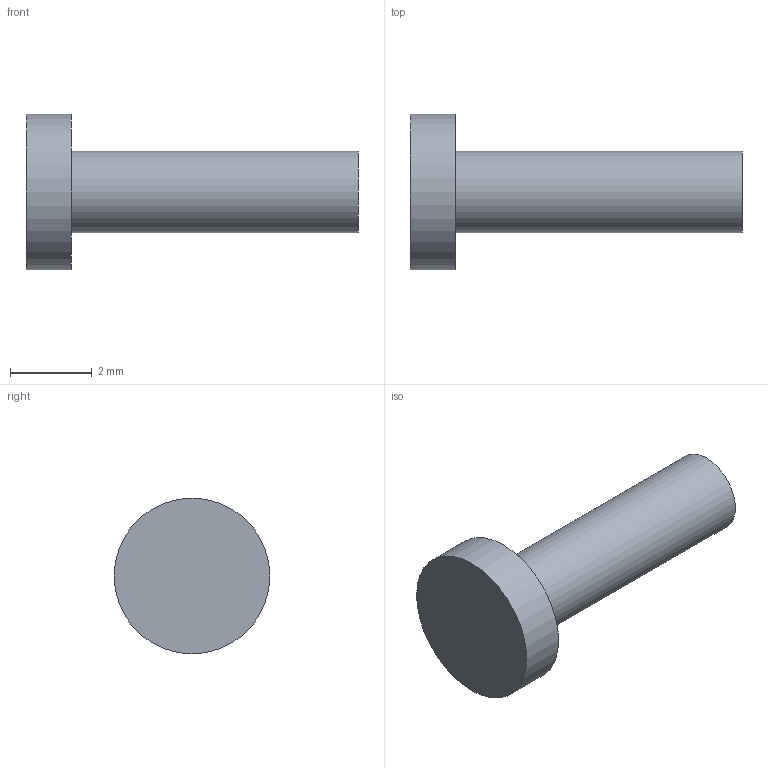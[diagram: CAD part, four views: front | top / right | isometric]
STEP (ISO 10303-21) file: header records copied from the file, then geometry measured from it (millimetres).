
FILE_DESCRIPTION(('Open CASCADE Model'),'2;1');
FILE_NAME('Open CASCADE Shape Model','2026-11-24T19:57:39',('Author'),( 'Open CASCADE'),'Open CASCADE STEP processor 7.8','Open CASCADE 7.8' ,'Unknown');
FILE_SCHEMA(('AUTOMOTIVE_DESIGN { 1 0 10303 214 1 1 1 1 }'));
Length unit declared in the file: millimetre
Products named in the file (1): Open CASCADE STEP translator 7.8 39
Bounding box: 8.1 x 3.8 x 3.8 mm (x, y, z)
Volume: 34.5 mm3; surface area: 79.8 mm2
Topology: 1 solids, 1 shells, 5 faces, 6 edges, 4 vertices
Faces by surface type: plane 3, cylinder 2
Full cylindrical faces by diameter (mm): 2 x1, 3.8 x1
Entity records: 190 total; most frequent: DIRECTION 32, CARTESIAN_POINT 30, ORIENTED_EDGE 12, PCURVE 12, DEFINITIONAL_REPRESENTATION 12, AXIS2_PLACEMENT_3D 10, CIRCLE 8, LINE 8
